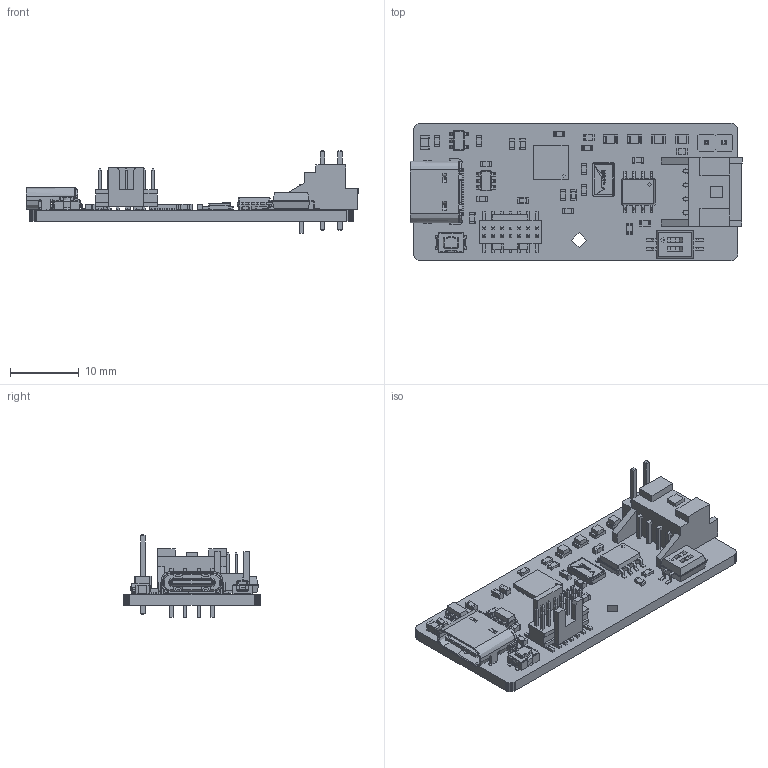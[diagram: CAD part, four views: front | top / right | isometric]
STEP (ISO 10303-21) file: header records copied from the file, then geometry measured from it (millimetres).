
FILE_DESCRIPTION(('KiCad electronic assembly'),'2;1');
FILE_NAME('can-usb-dongle.step','2024-01-07T00:09:30',('Pcbnew'),( 'Kicad'),'Open CASCADE STEP processor 7.6','KiCad to STEP converter' ,'Unknown');
FILE_SCHEMA(('AUTOMOTIVE_DESIGN { 1 0 10303 214 1 1 1 1 }'));
Length unit declared in the file: millimetre
Products named in the file (32): can-usb-dongle 1; C_0603_1608Metric; SOLID; R_0603_1608Metric; C_0805_2012Metric; SW_DIP_SPSTx02_Slide_KingTek_DSHP02TS_W7.62mm_P1.27mm; LED_0805_2012Metric; Download_STP_830030819 (rev1); COMPOUND; QFN-32-1EP_5x5mm_P0.5mm_EP3.45x3.45mm; SOT-23-6; SOIC-8_3.9x4.9mm_P1.27mm; S04B-PASK-2; FTSH-107-01-L-DV-K; SOT-23-5; STP_629722000214 (rev1); PinHeader_1x02_P2.54mm_Vertical; STP_435431019840 (rev1); _autosave-can-usb-dongle PCB
Assembly tree (52 placements, depth 3):
  can-usb-dongle 1
    C_0603_1608Metric  x14
      SOLID
    R_0603_1608Metric  x6
      SOLID
    C_0805_2012Metric
      SOLID
    SW_DIP_SPSTx02_Slide_KingTek_DSHP02TS_W7.62mm_P1.27mm
      SOLID
    LED_0805_2012Metric  x4
      SOLID
    Download_STP_830030819 (rev1)
      COMPOUND
    QFN-32-1EP_5x5mm_P0.5mm_EP3.45x3.45mm
      SOLID
    SOT-23-6
      SOLID
    SOIC-8_3.9x4.9mm_P1.27mm
      SOLID
    S04B-PASK-2
      SOLID
    FTSH-107-01-L-DV-K
      COMPOUND
    SOT-23-5
      SOLID
    STP_629722000214 (rev1)
      COMPOUND
    PinHeader_1x02_P2.54mm_Vertical
      SOLID
    STP_435431019840 (rev1)
      COMPOUND
    _autosave-can-usb-dongle PCB
Bounding box: 48.19 x 20 x 11.94 mm (x, y, z)
Topology: 72 solids, 104 shells, 3907 faces, 10454 edges, 6778 vertices
Faces by surface type: plane 2955, cylinder 773, bspline 153, cone 16, torus 6, sphere 4
Full cylindrical faces by diameter (mm): 0.5 x3, 0.6 x1, 0.65 x2, 0.7 x4, 1 x2, 1.1 x2, 2.2 x3
Entity records: 230036 total; most frequent: CARTESIAN_POINT 46746, DIRECTION 32350, LINE 23210, VECTOR 23210, ORIENTED_EDGE 17614, PCURVE 17614, DEFINITIONAL_REPRESENTATION 17614, EDGE_CURVE 8807
